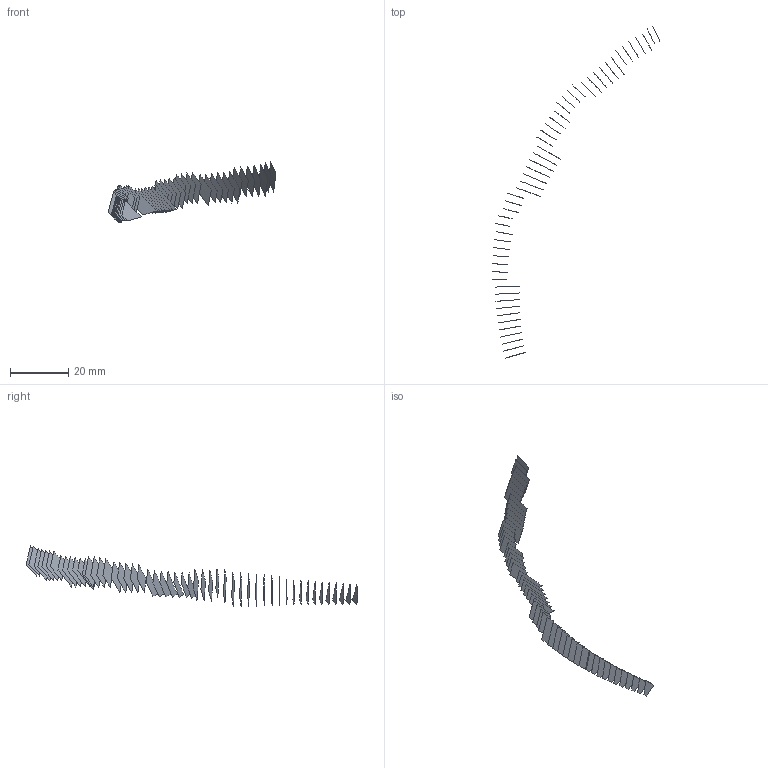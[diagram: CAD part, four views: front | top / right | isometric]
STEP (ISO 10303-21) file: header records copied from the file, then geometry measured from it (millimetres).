
FILE_DESCRIPTION(('FreeCAD Model'),'2;1');
FILE_NAME('Open CASCADE Shape Model','2022-05-21T09:28:01',('FreeCAD'),( 'FreeCAD'),'Open CASCADE STEP processor 7.5','FreeCAD','Unknown');
FILE_SCHEMA(('AUTOMOTIVE_DESIGN { 1 0 10303 214 1 1 1 1 }'));
Length unit declared in the file: millimetre
Products named in the file (53): Open CASCADE STEP translator 7.5 1; Open CASCADE STEP translator 7.5 1.1; Open CASCADE STEP translator 7.5 1.2; Open CASCADE STEP translator 7.5 1.3; Open CASCADE STEP translator 7.5 1.4; Open CASCADE STEP translator 7.5 1.5; Open CASCADE STEP translator 7.5 1.6; Open CASCADE STEP translator 7.5 1.7; Open CASCADE STEP translator 7.5 1.8; Open CASCADE STEP translator 7.5 1.9; Open CASCADE STEP translator 7.5 1.10; Open CASCADE STEP translator 7.5 1.11; Open CASCADE STEP translator 7.5 1.12; Open CASCADE STEP translator 7.5 1.13; Open CASCADE STEP translator 7.5 1.14; Open CASCADE STEP translator 7.5 1.15; Open CASCADE STEP translator 7.5 1.16; Open CASCADE STEP translator 7.5 1.17; Open CASCADE STEP translator 7.5 1.18; Open CASCADE STEP translator 7.5 1.19; Open CASCADE STEP translator 7.5 1.20; Open CASCADE STEP translator 7.5 1.21; Open CASCADE STEP translator 7.5 1.22; Open CASCADE STEP translator 7.5 1.23; Open CASCADE STEP translator 7.5 1.24; Open CASCADE STEP translator 7.5 1.25; Open CASCADE STEP translator 7.5 1.26; Open CASCADE STEP translator 7.5 1.27; Open CASCADE STEP translator 7.5 1.28; Open CASCADE STEP translator 7.5 1.29; Open CASCADE STEP translator 7.5 1.30; Open CASCADE STEP translator 7.5 1.31; Open CASCADE STEP translator 7.5 1.32; Open CASCADE STEP translator 7.5 1.33; Open CASCADE STEP translator 7.5 1.34; Open CASCADE STEP translator 7.5 1.35; Open CASCADE STEP translator 7.5 1.36; Open CASCADE STEP translator 7.5 1.37; Open CASCADE STEP translator 7.5 1.38; Open CASCADE STEP translator 7.5 1.39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
Assembly tree (52 placements, depth 2):
  Open CASCADE STEP translator 7.5 1
    Open CASCADE STEP translator 7.5 1.1
    Open CASCADE STEP translator 7.5 1.2
    Open CASCADE STEP translator 7.5 1.3
    Open CASCADE STEP translator 7.5 1.4
    Open CASCADE STEP translator 7.5 1.5
    Open CASCADE STEP translator 7.5 1.6
    Open CASCADE STEP translator 7.5 1.7
    Open CASCADE STEP translator 7.5 1.8
    Open CASCADE STEP translator 7.5 1.9
    Open CASCADE STEP translator 7.5 1.10
    Open CASCADE STEP translator 7.5 1.11
    Open CASCADE STEP translator 7.5 1.12
    Open CASCADE STEP translator 7.5 1.13
    Open CASCADE STEP translator 7.5 1.14
    Open CASCADE STEP translator 7.5 1.15
    Open CASCADE STEP translator 7.5 1.16
    Open CASCADE STEP translator 7.5 1.17
    Open CASCADE STEP translator 7.5 1.18
    Open CASCADE STEP translator 7.5 1.19
    Open CASCADE STEP translator 7.5 1.20
    Open CASCADE STEP translator 7.5 1.21
    Open CASCADE STEP translator 7.5 1.22
    Open CASCADE STEP translator 7.5 1.23
    Open CASCADE STEP translator 7.5 1.24
    Open CASCADE STEP translator 7.5 1.25
    Open CASCADE STEP translator 7.5 1.26
    Open CASCADE STEP translator 7.5 1.27
    Open CASCADE STEP translator 7.5 1.28
    Open CASCADE STEP translator 7.5 1.29
    Open CASCADE STEP translator 7.5 1.30
    Open CASCADE STEP translator 7.5 1.31
    Open CASCADE STEP translator 7.5 1.32
    Open CASCADE STEP translator 7.5 1.33
    Open CASCADE STEP translator 7.5 1.34
    Open CASCADE STEP translator 7.5 1.35
    Open CASCADE STEP translator 7.5 1.36
    Open CASCADE STEP translator 7.5 1.37
    Open CASCADE STEP translator 7.5 1.38
    Open CASCADE STEP translator 7.5 1.39
    Open CASCADE STEP translator 7.5 1.40
    Open CASCADE STEP translator 7.5 1.41
    Open CASCADE STEP translator 7.5 1.42
    Open CASCADE STEP translator 7.5 1.43
    Open CASCADE STEP translator 7.5 1.44
    Open CASCADE STEP translator 7.5 1.45
    Open CASCADE STEP translator 7.5 1.46
    Open CASCADE STEP translator 7.5 1.47
    Open CASCADE STEP translator 7.5 1.48
    Open CASCADE STEP translator 7.5 1.49
    Open CASCADE STEP translator 7.5 1.50
    Open CASCADE STEP translator 7.5 1.51
    Open CASCADE STEP translator 7.5 1.52
Bounding box: 57.54 x 113.75 x 20.86 mm (x, y, z)
Surface area: 1647.1 mm2 (no closed solid volume)
Topology: 0 solids, 52 shells, 52 faces, 763 edges, 763 vertices
Faces by surface type: bspline 52
Entity records: 11391 total; most frequent: CARTESIAN_POINT 4076, B_SPLINE_CURVE_WITH_KNOTS 1526, ORIENTED_EDGE 763, EDGE_CURVE 763, VERTEX_POINT 763, SURFACE_CURVE 763, PCURVE 763, DEFINITIONAL_REPRESENTATION 763
